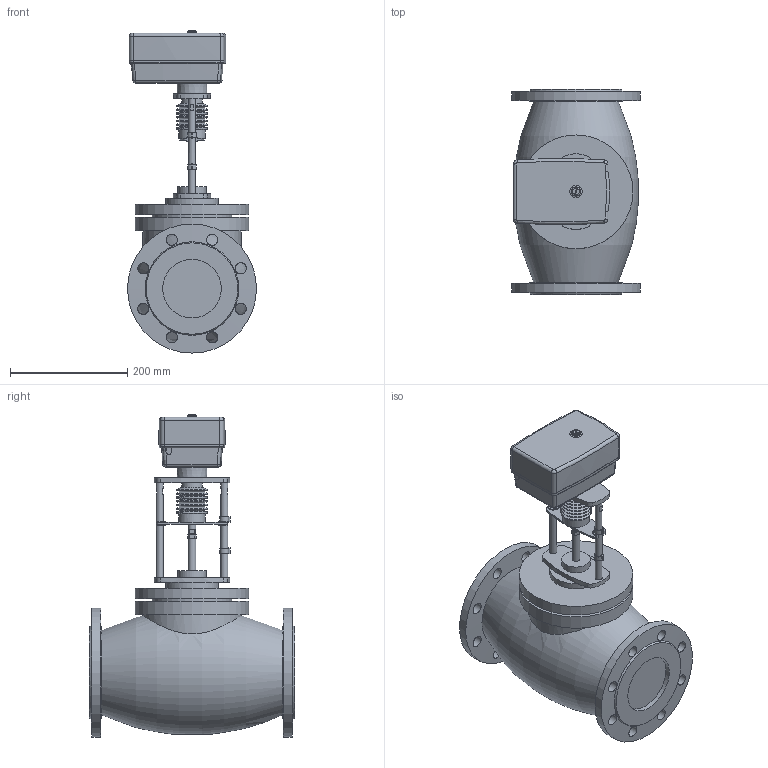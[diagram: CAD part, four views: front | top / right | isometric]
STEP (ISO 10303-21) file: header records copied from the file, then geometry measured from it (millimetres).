
FILE_DESCRIPTION(/* description */ ('Unknown'),/* implementation_level */ '2;1');
FILE_NAME(/* name */ 'Клапан TRV-100-110',/* time_stamp */ '2021-12-06T16:27:18+03:00',/* author */ ('Unknown'),/* organization */ ('Unknown'),/* preprocessor_version */ 'ST-DEVELOPER v16.7',/* originating_system */ 'DEX',/* authorisation */ $);
FILE_SCHEMA (('AUTOMOTIVE_DESIGN {1 0 10303 214 3 1 1}'));
Length unit declared in the file: millimetre
Products named in the file (1): 抔黽鳧 TRV-100-110
Bounding box: 220 x 350 x 549.4 mm (x, y, z)
Volume: 13333028.3 mm3; surface area: 567597.2 mm2
Topology: 1 solids, 2 shells, 363 faces, 941 edges, 603 vertices
Faces by surface type: plane 184, cylinder 99, torus 35, cone 33, bspline 8, sphere 4
Full cylindrical faces by diameter (mm): 12.002 x4, 13 x2, 15 x1, 19 x16, 35.098 x1, 45.4 x1, 48 x1, 90 x1, 100 x1, 135 x1, 168.074 x1, 194 x2, 220 x2
Entity records: 14077 total; most frequent: CARTESIAN_POINT 3103, DIRECTION 1788, ORIENTED_EDGE 1624, EDGE_CURVE 812, AXIS2_PLACEMENT_3D 695, VERTEX_POINT 547, EDGE_LOOP 499, FACE_BOUND 499
